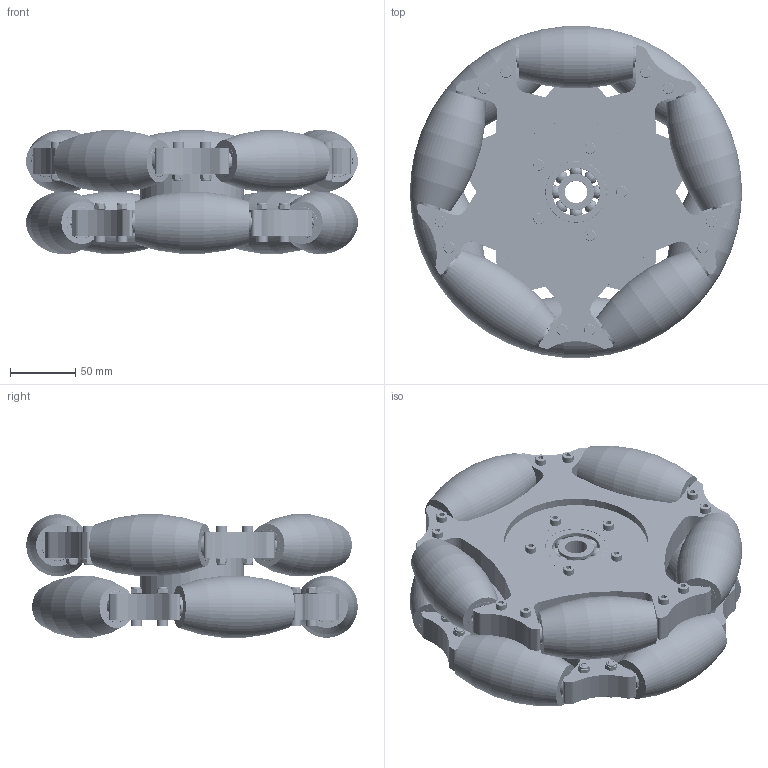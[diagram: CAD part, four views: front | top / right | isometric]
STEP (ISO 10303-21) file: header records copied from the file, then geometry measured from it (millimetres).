
FILE_DESCRIPTION (( 'STEP AP214' ), '1' );
FILE_NAME ('14147.STEP', '2017-05-06T01:11:25', ( '微软用户' ), ( '微软中国' ), 'SwSTEP 2.0', 'SolidWorks 2015', '' );
FILE_SCHEMA (( 'AUTOMOTIVE_DESIGN' ));
Length unit declared in the file: millimetre
Products named in the file (14): 10寸90度5分重载型轮子-弧形轮(A版); 10寸90度5分重载型轮子-弧形轮夹板; 囀鞠褒蹟佪(M5X25); 10寸90度5分重载型轮子-弧形轮固定板; 10寸90度5分重载型轮子-连接套; 14147; 囀鞠褒蹟佪(M5X60); 旮僱⑩粣創6303; 10寸90度5分重载型轮子-多件弧形轮组合; 滅侂蹟譫M5; 10寸90度5分重载型轮子-单件弧形轮组合(A版); 旮僱⑩粣創628; す菜朴8; 10寸90度5分重载型轮子-弧形轮轴(A版)
Assembly tree (49 placements, depth 4):
  14147
    10寸90度5分重载型轮子-连接套
    10寸90度5分重载型轮子-多件弧形轮组合  x2
      10寸90度5分重载型轮子-弧形轮固定板
      囀鞠褒蹟佪(M5X25)
      10寸90度5分重载型轮子-弧形轮夹板
      10寸90度5分重载型轮子-单件弧形轮组合(A版)
        10寸90度5分重载型轮子-弧形轮(A版)
        10寸90度5分重载型轮子-弧形轮轴(A版)
        す菜朴8  x2
        旮僱⑩粣創628  x2
      滅侂蹟譫M5
    旮僱⑩粣創6303  x2
    囀鞠褒蹟佪(M5X60)  x5
    滅侂蹟譫M5  x5
Bounding box: 253.82 x 253.37 x 94.37 mm (x, y, z)
Volume: 2154911.6 mm3; surface area: 599105.5 mm2
Topology: 317 solids, 317 shells, 3218 faces, 7780 edges, 4938 vertices
Faces by surface type: cylinder 1186, plane 876, torus 554, sphere 352, cone 250
Entity records: 15712 total; most frequent: DIRECTION 2850, CARTESIAN_POINT 2572, ORIENTED_EDGE 2356, EDGE_CURVE 1178, AXIS2_PLACEMENT_3D 1154, VERTEX_POINT 772, CIRCLE 624, EDGE_LOOP 568
